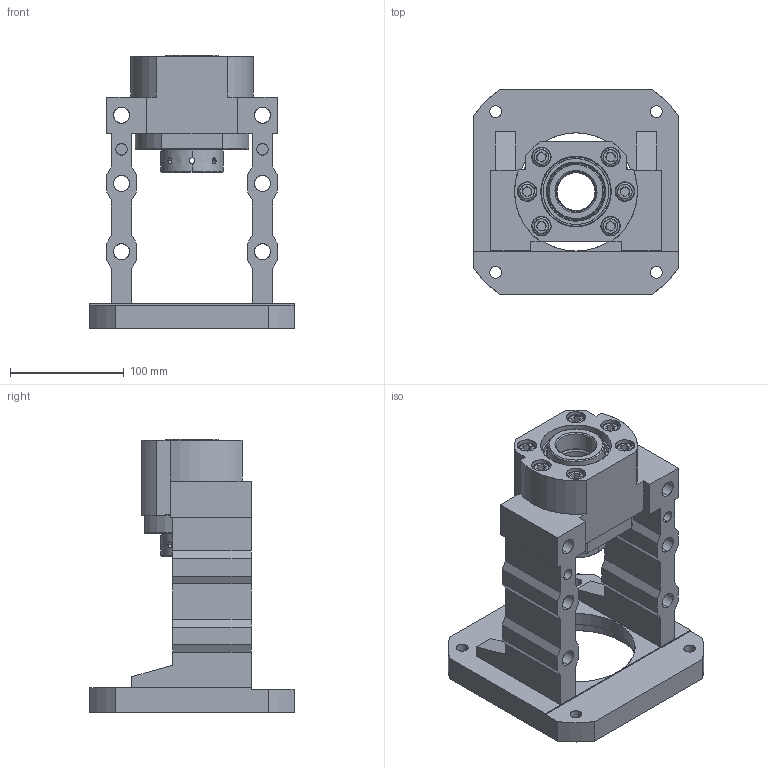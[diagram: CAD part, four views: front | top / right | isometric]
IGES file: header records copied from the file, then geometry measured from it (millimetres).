
Start section: SolidWorks IGES file using analytic representation for surfaces
Bounding box: 180 x 180 x 241 mm (x, y, z)
Surface area: 243036.4 mm2 (no closed solid volume)
Topology: 0 solids, 0 shells, 346 faces, 6214 edges, 6206 vertices
Faces by surface type: revolution 184, bspline 162
